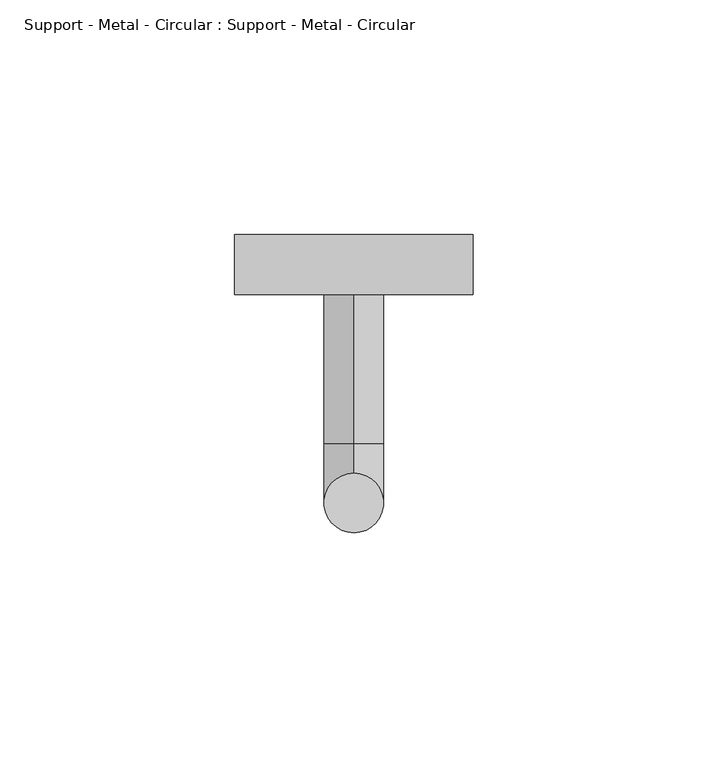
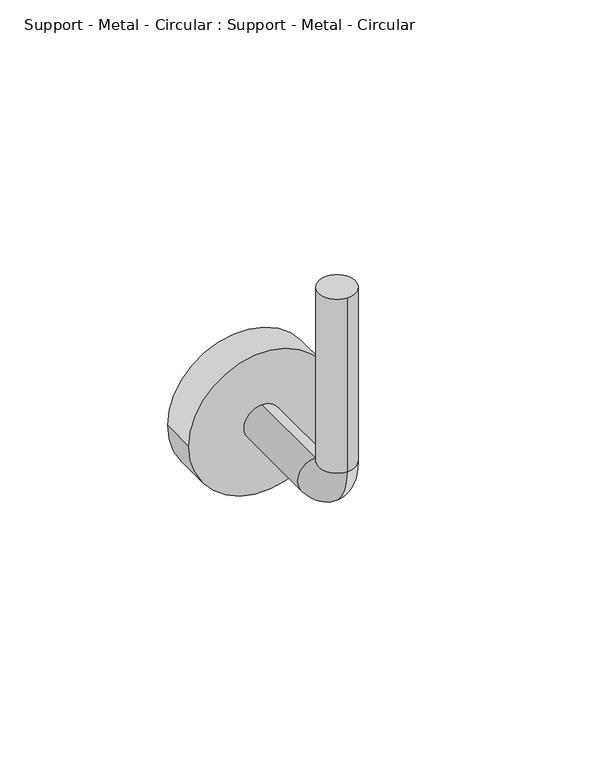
"""IFC4 building model written with IfcOpenShell, lengths in millimetres: proxy geometry, Support - Metal - Circular : Support - Metal - Circular."""

from ifc_helpers import new_model, si_unit, point, frame, frame_2d, origin, origin_with_axes, place, context, project, spatial, circle_curve, ellipse_curve, trimmed, segment, composite_curve, outline, extrude, source, transform, mapped, element, save
from ifc_brep_helpers import plane_surface, cylinder_surface, revolved_surface, advanced_brep


def support_metal_circular_support_metal_circular_ae412147(model_context):
    return source(origin(), model_context, "Body", "SolidModel", [
        advanced_brep(
        [(0.0, 44.45, -69.85), (0.0, 44.45, -82.55), (0.0, 12.7, -69.85), (0.0, 12.7, -82.55), (0.0, -6.35, -63.5), (0.0, 6.35, -63.5), (0.0, 6.35, 0.0), (0.0, -6.35, 0.0)],
        [
            (0, 1, circle_curve(frame((0.0, 44.45, -76.2), z_axis=(0.0, 1.0, 0.0), x_axis=(0.0, 0.0, -1.0)), 6.35)),
            (1, 0, circle_curve(frame((0.0, 44.45, -76.2), z_axis=(0.0, 1.0, 0.0), x_axis=(0.0, 0.0, -1.0)), 6.35)),
            (0, 2),
            (2, 3, circle_curve(frame((0.0, 12.7, -76.2), z_axis=(0.0, 1.0, 0.0), x_axis=(0.0, 0.0, -1.0)), 6.35)),
            (3, 1),
            (3, 2, circle_curve(frame((0.0, 12.7, -76.2), z_axis=(0.0, 1.0, 0.0), x_axis=(0.0, 0.0, -1.0)), 6.35)),
            (4, 3, circle_curve(frame((0.0, 12.7, -63.5), z_axis=(1.0, 0.0, 0.0), x_axis=(0.0, 0.0, -1.0)), 19.05)),
            (2, 5, circle_curve(frame((0.0, 12.7, -63.5), z_axis=(-1.0, 0.0, 0.0), x_axis=(0.0, 0.0, -1.0)), 6.35)),
            (5, 4, circle_curve(frame((0.0, 0.0, -63.5), z_axis=(0.0, 0.0, -1.0), x_axis=(0.0, -1.0, 0.0)), 6.35)),
            (4, 5, circle_curve(frame((0.0, 0.0, -63.5), z_axis=(0.0, 0.0, -1.0), x_axis=(0.0, -1.0, 0.0)), 6.35)),
            (6, 7, circle_curve(frame((0.0, 0.0, 0.0), z_axis=(0.0, 0.0, 1.0), x_axis=(0.0, -1.0, 0.0)), 6.35)),
            (7, 6, circle_curve(frame((0.0, 0.0, 0.0), z_axis=(0.0, 0.0, 1.0), x_axis=(0.0, -1.0, 0.0)), 6.35)),
            (5, 6),
            (7, 4),
        ],
        [
            plane_surface(frame((0.0, 44.45, -76.2), z_axis=(0.0, 1.0, 0.0), x_axis=(1.0, 0.0, 0.0))),
            cylinder_surface(frame((0.0, 44.45, -76.2), z_axis=(0.0, 1.0, 0.0), x_axis=(0.0, 0.0, -1.0)), 6.35),
            revolved_surface(trimmed(ellipse_curve(frame((0.0, 12.7, -76.2), z_axis=(0.0, 1.0, 0.0), x_axis=(0.0, 0.0, -1.0)), 6.35, 6.35), [point((0.0, 12.7, -69.85))], [point((0.0, 12.7, -82.55))], True, "CARTESIAN"), (0.0, 12.7, -63.5), (-1.0, 0.0, 0.0)),
            revolved_surface(trimmed(ellipse_curve(frame((0.0, 12.7, -76.2), z_axis=(0.0, 1.0, 0.0), x_axis=(0.0, 0.0, -1.0)), 6.35, 6.35), [point((0.0, 12.7, -82.55))], [point((0.0, 12.7, -69.85))], True, "CARTESIAN"), (0.0, 12.7, -63.5), (-1.0, 0.0, 0.0)),
            plane_surface(origin_with_axes()),
            cylinder_surface(frame((0.0, 0.0, -63.5), z_axis=(0.0, 0.0, -1.0), x_axis=(0.0, -1.0, 0.0)), 6.35),
        ],
        [
            (0, [[1, 2]]),
            (1, [[-1, 3, 4, 5]]),
            (1, [[-2, -5, 6, -3]]),
            (2, [[7, -4, 8, 9]]),
            (3, [[-8, -6, -7, 10]]),
            (4, [[11, 12]]),
            (5, [[-9, 13, -12, 14]]),
            (5, [[-10, -14, -11, -13]]),
        ],
    ),
        extrude(outline(composite_curve([segment(trimmed(circle_curve(frame_2d((-76.2, 0.0)), 25.4), [point((-76.2, -25.4))], [point((-76.2, 25.4))], False, "CARTESIAN"), True, "CONTINUOUS"), segment(trimmed(circle_curve(frame_2d((-76.2, 0.0)), 25.4), [point((-76.2, 25.4))], [point((-76.2, -25.4))], False, "CARTESIAN"), True, "CONTINUOUS")], self_intersect=False)), frame((0.0, 44.45, 0.0), z_axis=(0.0, 1.0, 0.0), x_axis=(0.0, 0.0, 1.0)), (0.0, 0.0, 1.0), 12.7),
    ])


if __name__ == "__main__":
    model = new_model("IFC4")
    model_context = context("Model", 3, world=origin())
    ifc_project = project(units=[si_unit("LENGTHUNIT", "METRE", prefix="MILLI")], contexts=[model_context])
    site = spatial("IfcSite", under=ifc_project)
    building = spatial("IfcBuilding", under=site)
    placement = place(None, origin())
    support_metal_circular_support_metal_circular_shape = support_metal_circular_support_metal_circular_ae412147(model_context)
    element("IfcBuildingElementProxy", 1, Name="Support - Metal - Circular : Support - Metal - Circular", ObjectType="Support - Metal - Circular : Support - Metal - Circular", at=placement, inside=building, context=model_context, shape_type="MappedRepresentation", body=[
        mapped(support_metal_circular_support_metal_circular_shape, transform((0.0, 0.0, 0.0), x_axis=(1.0, 0.0, 0.0), y_axis=(0.0, 1.0, 0.0), z_axis=(0.0, 0.0, 1.0))),
    ])
    save(model, "model.ifc")
